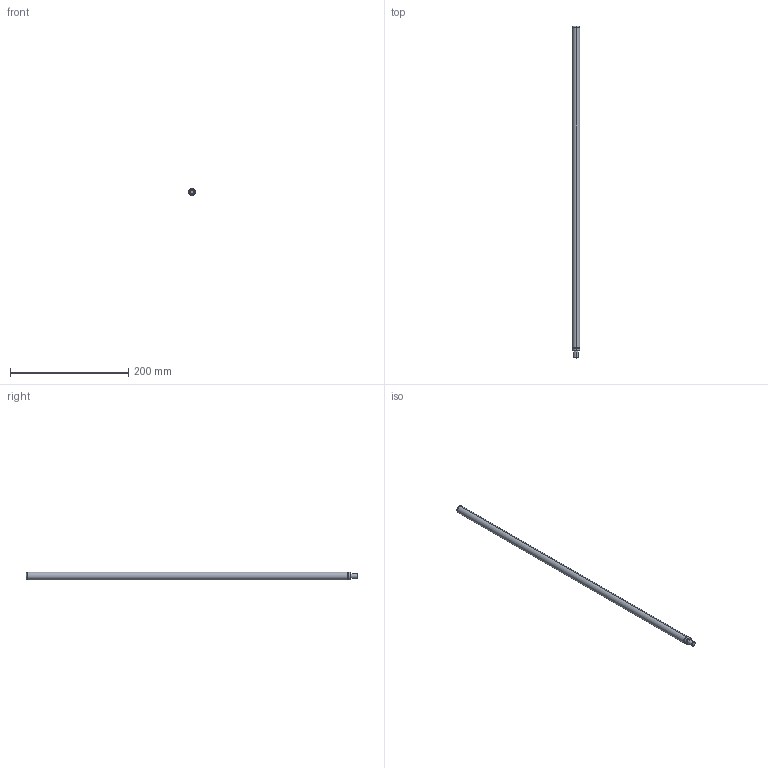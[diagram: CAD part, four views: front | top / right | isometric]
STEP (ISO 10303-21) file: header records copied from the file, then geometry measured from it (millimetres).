
FILE_DESCRIPTION (( 'STEP AP214' ), '1' );
FILE_NAME ('DB-55-550.STEP', '2016-01-18T15:04:49', ( '' ), ( '' ), 'SwSTEP 2.0', 'SolidWorks 2012', '' );
FILE_SCHEMA (( 'AUTOMOTIVE_DESIGN' ));
Length unit declared in the file: millimetre
Products named in the file (1): DB-55-550
Bounding box: 13 x 562 x 13 mm (x, y, z)
Volume: 73520.3 mm3; surface area: 22969.8 mm2
Topology: 1 solids, 1 shells, 17 faces, 32 edges, 18 vertices
Faces by surface type: torus 6, cylinder 6, plane 3, cone 2
Entity records: 464 total; most frequent: DIRECTION 92, CARTESIAN_POINT 68, ORIENTED_EDGE 64, AXIS2_PLACEMENT_3D 42, EDGE_CURVE 32, CIRCLE 24, EDGE_LOOP 18, VERTEX_POINT 18
